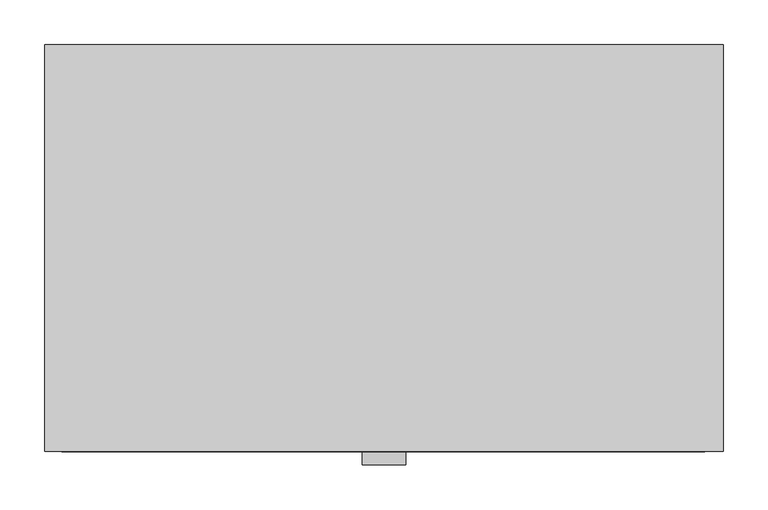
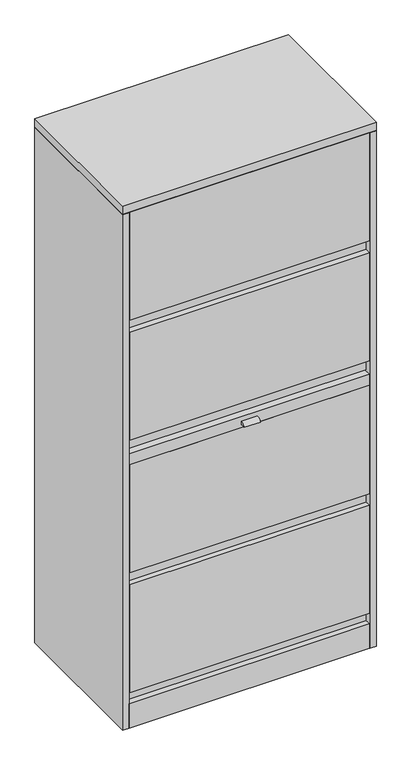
"""IFC4 building model written with IfcOpenShell, lengths in millimetres: furniture geometry, Steelcase - 900 Series - Storage - Lateral File With Posting Shelf - Flush Steel : Four 15H Lift Up Door - 30W."""

from ifc_helpers import new_model, si_unit, point, frame, frame_2d, origin, origin_with_axes, place, context, project, spatial, polyline, circle_curve, trimmed, segment, composite_curve, outline, extrude, faceted_brep, source, transform, mapped, element, save


def furniture_7f13777b(model_context):
    return source(origin(), model_context, "Body", "SolidModel", [
        extrude(outline(composite_curve([segment(polyline([(-457.2, 845.7259941), (-459.1278436, 845.7259941)]), True, "CONTINUOUS"), segment(trimmed(circle_curve(frame_2d((-465.1546853, 839.5924947)), 8.5989904), [point((-459.1278436, 845.7259941))], [point((-471.181527, 845.7259941))], True, "CARTESIAN"), True, "CONTINUOUS"), segment(polyline([(-471.181527, 845.7259941), (-472.2456768, 845.7259941)]), True, "CONTINUOUS"), segment(trimmed(circle_curve(frame_2d((-456.0306814, 838.2093196)), 17.872506), [point((-472.2456768, 845.7259941))], [point((-457.2, 856.0435329))], False, "CARTESIAN"), True, "CONTINUOUS"), segment(polyline([(-457.2, 856.0435329), (-457.2, 845.7259941)]), True, "CONTINUOUS")], self_intersect=False)), frame((356.362, 0.0, 0.0), z_axis=(1.0, 0.0, 0.0), x_axis=(0.0, 1.0, 0.0)), (0.0, 0.0, 1.0), 49.276),
        extrude(outline(polyline([(-439.6742224, 1290.3962373), (-457.2, 1294.7658834), (-457.2, 1637.8935942), (-431.800255, 1637.8935942), (-431.800255, 1255.8522686), (-439.6742224, 1255.8522686), (-439.6742224, 1290.3962373)])), frame((20.8289612, 0.0, 0.0), z_axis=(1.0, 0.0, 0.0), x_axis=(0.0, 1.0, 0.0)), (0.0, 0.0, 1.0), 720.3432404),
        extrude(outline(polyline([(-439.6742224, 487.7562373), (-457.2, 492.1258834), (-457.2, 835.2535983), (-431.800255, 835.2535983), (-431.800255, 453.2121984), (-439.6742224, 453.2121984), (-439.6742224, 487.7562373)])), frame((20.8289612, 0.0, 0.0), z_axis=(1.0, 0.0, 0.0), x_axis=(0.0, 1.0, 0.0)), (0.0, 0.0, 1.0), 720.3432404),
        extrude(outline(polyline([(-439.6742224, 106.7562373), (-457.2, 111.1258834), (-457.2, 454.2536007), (-431.800255, 454.2536007), (-431.800255, 77.9779983), (-439.6742224, 77.9779983), (-439.6742224, 106.7562373)])), frame((20.8289612, 0.0, 0.0), z_axis=(1.0, 0.0, 0.0), x_axis=(0.0, 1.0, 0.0)), (0.0, 0.0, 1.0), 720.3432404),
        extrude(outline(polyline([(-439.6742224, 909.3962373), (-457.2, 913.7658834), (-457.2, 1256.8935983), (-431.800255, 1256.8935983), (-431.800255, 874.8521959), (-439.6742224, 874.8521959), (-439.6742224, 909.3962373)])), frame((20.8289612, 0.0, 0.0), z_axis=(1.0, 0.0, 0.0), x_axis=(0.0, 1.0, 0.0)), (0.0, 0.0, 1.0), 720.3432404),
        extrude(outline(polyline([(741.1722015, -457.2), (20.8289612, -457.2), (20.8289612, -431.800255), (741.1722015, -431.800255), (741.1722015, -457.2)])), frame((0.0, 0.0, 834.2122), z_axis=(0.0, 0.0, 1.0), x_axis=(1.0, 0.0, 0.0)), (0.0, 0.0, 1.0), 35.9156),
        extrude(outline(polyline([(-430.275847, 77.9779983), (-430.275847, 103.3780013), (-25.2721219, 103.3780013), (-25.2721219, 0.0), (-457.2, 0.0), (-457.2, 77.9779983), (-430.275847, 77.9779983)])), frame((19.3039998, 0.0, 0.0), z_axis=(1.0, 0.0, 0.0), x_axis=(0.0, 1.0, 0.0)), (0.0, 0.0, 1.0), 721.8682018),
        faceted_brep([(762.0, 0.0, 1663.7), (0.0, 0.0, 1663.7), (0.0, -457.2, 1663.7), (762.0, -457.2, 1663.7), (762.0, 0.0, 1638.2999516), (762.0, -457.2, 1638.2999516), (0.0, -457.2, 1638.2999516), (0.0, 0.0, 1638.2999516), (742.6960184, -25.2721219, 1638.2999516), (20.8289612, -25.2721219, 1638.2999516), (20.8289612, -415.9241219, 1638.2999516), (742.6960184, -415.9241219, 1638.2999516), (742.6960184, -25.2721219, 1636.776), (742.6960184, -415.9241219, 1636.776), (20.8289612, -415.9241219, 1636.776), (20.8289612, -25.2721219, 1636.776)], [[[0, 1, 2, 3]], [[4, 5, 6, 7], [8, 9, 10, 11]], [[1, 0, 4, 7]], [[2, 1, 7, 6]], [[3, 2, 6, 5]], [[0, 3, 5, 4]], [[12, 13, 14, 15]], [[12, 15, 9, 8]], [[15, 14, 10, 9]], [[14, 13, 11, 10]], [[13, 12, 8, 11]]]),
        extrude(outline(polyline([(742.6960184, -25.2721219), (19.3039998, -25.2721219), (19.3039998, -457.2), (0.0, -457.2), (0.0, 0.0), (762.0, 0.0), (762.0, -457.2), (742.6960184, -457.2), (742.6960184, -25.2721219)])), origin_with_axes(), (0.0, 0.0, 1.0), 1636.776),
    ])


if __name__ == "__main__":
    model = new_model("IFC4")
    model_context = context("Model", 3, world=origin())
    ifc_project = project(units=[si_unit("LENGTHUNIT", "METRE", prefix="MILLI")], contexts=[model_context])
    site = spatial("IfcSite", under=ifc_project)
    building = spatial("IfcBuilding", under=site)
    placement = place(None, origin())
    furniture_shape = furniture_7f13777b(model_context)
    element("IfcFurniture", 1, ObjectType="Steelcase - 900 Series - Storage - Lateral File With Posting Shelf - Flush Steel : Four 15H Lift Up Door - 30W", at=placement, inside=building, context=model_context, shape_type="MappedRepresentation", body=[
        mapped(furniture_shape, transform((0.0, 0.0, 0.0), x_axis=(1.0, 0.0, 0.0), y_axis=(0.0, 1.0, 0.0), z_axis=(0.0, 0.0, 1.0))),
    ])
    save(model, "model.ifc")
